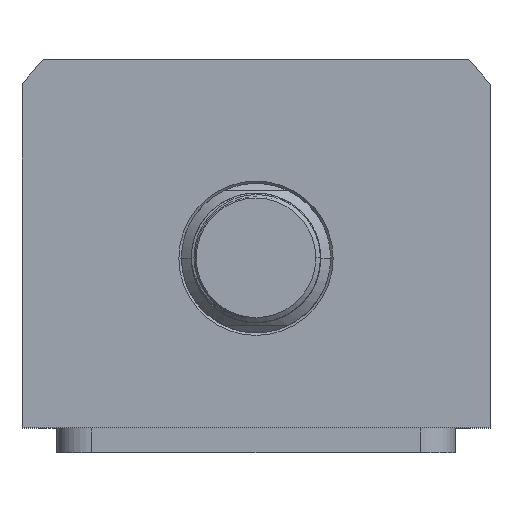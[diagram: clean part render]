
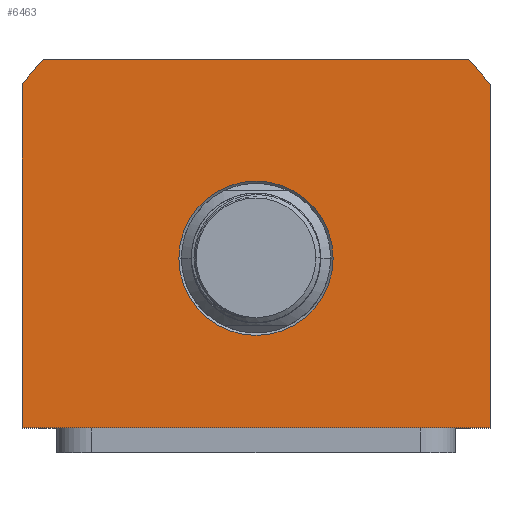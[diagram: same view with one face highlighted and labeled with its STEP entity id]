
A CAD part, top view. The second image highlights one B-rep face of the part: STEP entity #6463.
In plain terms, the highlighted planar face has unit normal (0, 0, 1).
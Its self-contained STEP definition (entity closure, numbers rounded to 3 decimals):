
#249 = CARTESIAN_POINT ( 'NONE',  ( -15.5, 0., 40. ) ) ;
#524 = DIRECTION ( 'NONE',  ( -1., 0., 0. ) ) ;
#527 = AXIS2_PLACEMENT_3D ( 'NONE', #8588, #10093, #17406 ) ;
#752 = ORIENTED_EDGE ( 'NONE', *, *, #6242, .T. ) ;
#892 = CIRCLE ( 'NONE', #16377, 15.5 ) ;
#980 = ORIENTED_EDGE ( 'NONE', *, *, #3901, .T. ) ;
#1106 = EDGE_LOOP ( 'NONE', ( #16032, #13368, #980, #3990, #16672, #752 ) ) ;
#1388 = CIRCLE ( 'NONE', #527, 15.5 ) ;
#1482 = CARTESIAN_POINT ( 'NONE',  ( 42.688, 40., 40. ) ) ;
#1744 = DIRECTION ( 'NONE',  ( 1., 0., 0. ) ) ;
#1968 = CARTESIAN_POINT ( 'NONE',  ( 0., 0., 40. ) ) ;
#2404 = ORIENTED_EDGE ( 'NONE', *, *, #3361, .T. ) ;
#2494 = FACE_BOUND ( 'NONE', #12610, .T. ) ;
#2522 = CARTESIAN_POINT ( 'NONE',  ( 0., 0., 40. ) ) ;
#2722 = CARTESIAN_POINT ( 'NONE',  ( 15.5, 0., 40. ) ) ;
#2785 = CARTESIAN_POINT ( 'NONE',  ( 0., 0., 40. ) ) ;
#2915 = DIRECTION ( 'NONE',  ( 1., 0., 0. ) ) ;
#3132 = AXIS2_PLACEMENT_3D ( 'NONE', #2785, #14911, #5843 ) ;
#3361 = EDGE_CURVE ( 'NONE', #15047, #8902, #1388, .T. ) ;
#3479 = DIRECTION ( 'NONE',  ( 1., 0., 0. ) ) ;
#3901 = EDGE_CURVE ( 'NONE', #15789, #6377, #17494, .T. ) ;
#3990 = ORIENTED_EDGE ( 'NONE', *, *, #13309, .T. ) ;
#4070 = DIRECTION ( 'NONE',  ( 1., 0., 0. ) ) ;
#5363 = LINE ( 'NONE', #13425, #12689 ) ;
#5531 = EDGE_CURVE ( 'NONE', #13535, #15789, #5363, .T. ) ;
#5781 = DIRECTION ( 'NONE',  ( 0., -1., 0. ) ) ;
#5843 = DIRECTION ( 'NONE',  ( 1., 0., 0. ) ) ;
#6220 = CARTESIAN_POINT ( 'NONE',  ( -47., -34., 40. ) ) ;
#6242 = EDGE_CURVE ( 'NONE', #18653, #13663, #12462, .T. ) ;
#6377 = VERTEX_POINT ( 'NONE', #1482 ) ;
#6463 = ADVANCED_FACE ( 'NONE', ( #2494, #18164 ), #10658, .T. ) ;
#6539 = DIRECTION ( 'NONE',  ( 0., 0., 1. ) ) ;
#6576 = EDGE_CURVE ( 'NONE', #13663, #13535, #9825, .T. ) ;
#7049 = DIRECTION ( 'NONE',  ( 0., 0., -1. ) ) ;
#7657 = CARTESIAN_POINT ( 'NONE',  ( -42.688, 40., 40. ) ) ;
#8334 = EDGE_CURVE ( 'NONE', #15157, #18653, #18961, .T. ) ;
#8588 = CARTESIAN_POINT ( 'NONE',  ( 0., 0., 40. ) ) ;
#8862 = CARTESIAN_POINT ( 'NONE',  ( 47., 34.832, 40. ) ) ;
#8902 = VERTEX_POINT ( 'NONE', #249 ) ;
#9825 = LINE ( 'NONE', #10846, #10541 ) ;
#10093 = DIRECTION ( 'NONE',  ( 0., 0., -1. ) ) ;
#10493 = EDGE_CURVE ( 'NONE', #8902, #15047, #892, .T. ) ;
#10541 = VECTOR ( 'NONE', #1744, 1000. ) ;
#10658 = PLANE ( 'NONE',  #3132 ) ;
#10846 = CARTESIAN_POINT ( 'NONE',  ( 47., -34., 40. ) ) ;
#11369 = CARTESIAN_POINT ( 'NONE',  ( -42.688, 40., 40. ) ) ;
#12035 = DIRECTION ( 'NONE',  ( 0., 0., 1. ) ) ;
#12202 = VECTOR ( 'NONE', #524, 1000. ) ;
#12366 = ORIENTED_EDGE ( 'NONE', *, *, #10493, .T. ) ;
#12462 = LINE ( 'NONE', #19168, #14094 ) ;
#12586 = AXIS2_PLACEMENT_3D ( 'NONE', #14892, #12035, #2915 ) ;
#12610 = EDGE_LOOP ( 'NONE', ( #2404, #12366 ) ) ;
#12689 = VECTOR ( 'NONE', #19362, 1000. ) ;
#12891 = LINE ( 'NONE', #11369, #12202 ) ;
#13068 = CARTESIAN_POINT ( 'NONE',  ( -47., 34.832, 40. ) ) ;
#13309 = EDGE_CURVE ( 'NONE', #6377, #15157, #12891, .T. ) ;
#13368 = ORIENTED_EDGE ( 'NONE', *, *, #5531, .T. ) ;
#13425 = CARTESIAN_POINT ( 'NONE',  ( 47., 34.832, 40. ) ) ;
#13535 = VERTEX_POINT ( 'NONE', #16080 ) ;
#13663 = VERTEX_POINT ( 'NONE', #6220 ) ;
#14094 = VECTOR ( 'NONE', #5781, 1000. ) ;
#14892 = CARTESIAN_POINT ( 'NONE',  ( 0., 0., 40. ) ) ;
#14911 = DIRECTION ( 'NONE',  ( 0., 0., 1. ) ) ;
#15047 = VERTEX_POINT ( 'NONE', #2722 ) ;
#15157 = VERTEX_POINT ( 'NONE', #7657 ) ;
#15789 = VERTEX_POINT ( 'NONE', #8862 ) ;
#16032 = ORIENTED_EDGE ( 'NONE', *, *, #6576, .T. ) ;
#16080 = CARTESIAN_POINT ( 'NONE',  ( 47., -34., 40. ) ) ;
#16377 = AXIS2_PLACEMENT_3D ( 'NONE', #2522, #7049, #4070 ) ;
#16672 = ORIENTED_EDGE ( 'NONE', *, *, #8334, .T. ) ;
#17406 = DIRECTION ( 'NONE',  ( 1., 0., 0. ) ) ;
#17494 = CIRCLE ( 'NONE', #12586, 58.5 ) ;
#18164 = FACE_OUTER_BOUND ( 'NONE', #1106, .T. ) ;
#18653 = VERTEX_POINT ( 'NONE', #13068 ) ;
#18961 = CIRCLE ( 'NONE', #18985, 58.5 ) ;
#18985 = AXIS2_PLACEMENT_3D ( 'NONE', #1968, #6539, #3479 ) ;
#19168 = CARTESIAN_POINT ( 'NONE',  ( -47., -34., 40. ) ) ;
#19362 = DIRECTION ( 'NONE',  ( 0., 1., 0. ) ) ;
